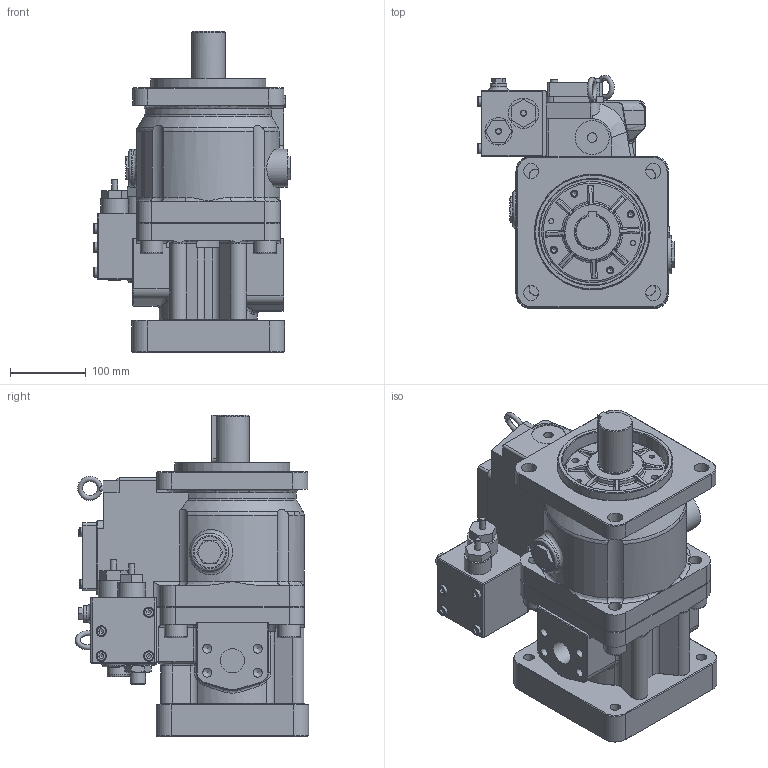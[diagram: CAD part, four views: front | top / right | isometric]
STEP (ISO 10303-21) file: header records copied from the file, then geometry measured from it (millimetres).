
FILE_DESCRIPTION(/* description */ (''),/* implementation_level */ '2;1');
FILE_NAME(/* name */ 'J:\3D Step files\Approved for WEB\K3V\K3VL140B 1DRKS L1 1-00.stp',/* time_stamp */ '2014-04-23T09:01:26+01:00',/* author */ ('mnorman'),/* organization */ (''),/* preprocessor_version */ 'ST-DEVELOPER v15.2',/* originating_system */ 'Autodesk Inventor 2014',/* authorisation */ '');
FILE_SCHEMA (('AUTOMOTIVE_DESIGN { 1 0 10303 214 3 1 1 }'));
Length unit declared in the file: millimetre
Products named in the file (1): Part2
Bounding box: 261 x 309 x 425.1 mm (x, y, z)
Volume: 12563926.7 mm3; surface area: 765776.1 mm2
Topology: 1 solids, 25 shells, 1165 faces, 2719 edges, 1675 vertices
Faces by surface type: plane 537, cylinder 301, cone 153, torus 75, bspline 73, sphere 26
Full cylindrical faces by diameter (mm): 6 x4, 6.6 x4, 6.647 x10, 8 x8, 9 x4, 9.5 x4, 10 x4, 10.106 x8, 11 x6, 11.835 x4, 12 x4, 12.717 x1, 13 x4, 13.5 x4, 13.835 x4, 14 x4, 16 x2, 17.294 x6, 18 x4, 19.177 x1, 20 x14, 21 x1, 22 x5, 30 x5, 32 x6, 36 x1, 40 x1, 41 x2, 44 x1, 44.45 x1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
Entity records: 34654 total; most frequent: CARTESIAN_POINT 8868, DIRECTION 5067, ORIENTED_EDGE 4768, EDGE_CURVE 2384, AXIS2_PLACEMENT_3D 1996, VERTEX_POINT 1593, EDGE_LOOP 1537, ADVANCED_FACE 1164
